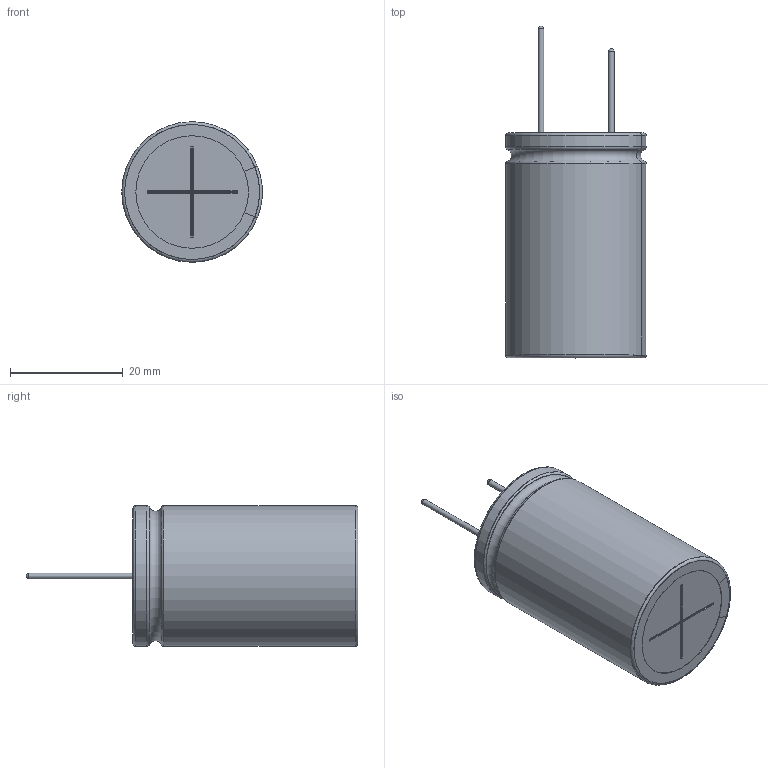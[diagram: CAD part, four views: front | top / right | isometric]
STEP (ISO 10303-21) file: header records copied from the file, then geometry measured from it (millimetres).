
FILE_DESCRIPTION(/* description */ (''),/* implementation_level */ '2;1');
FILE_NAME(/* name */ '25x40_Lead.stp',/* time_stamp */ '2017-09-06T16:19:53+09:00',/* author */ (''),/* organization */ (''),/* preprocessor_version */ 'ST-DEVELOPER v16',/* originating_system */ 'SIEMENS PLM Software NX 11.0',/* authorisation */ '');
FILE_SCHEMA (('AUTOMOTIVE_DESIGN { 1 0 10303 214 3 1 1 1 }'));
Length unit declared in the file: millimetre
Products named in the file (1): 25x40_Lead_0
Bounding box: 24.96 x 59 x 25 mm (x, y, z)
Volume: 19487 mm3; surface area: 11208.3 mm2
Topology: 3 solids, 3 shells, 100 faces, 252 edges, 160 vertices
Faces by surface type: cylinder 36, plane 28, torus 26, sphere 6, bspline 4
Full cylindrical faces by diameter (mm): 1 x2, 24.8 x2
Entity records: 3386 total; most frequent: CARTESIAN_POINT 605, DIRECTION 566, ORIENTED_EDGE 468, AXIS2_PLACEMENT_3D 235, EDGE_CURVE 234, VERTEX_POINT 154, CIRCLE 130, EDGE_LOOP 114
